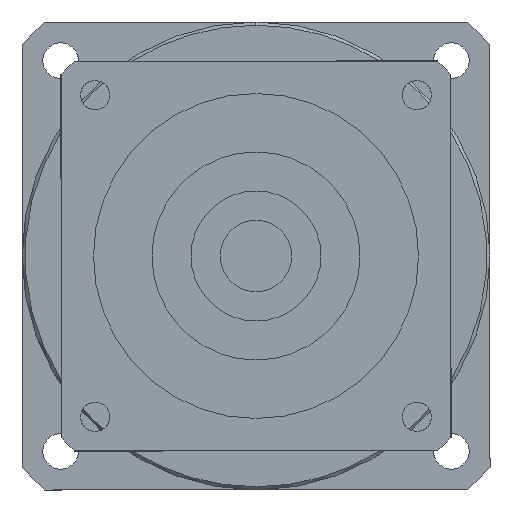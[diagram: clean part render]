
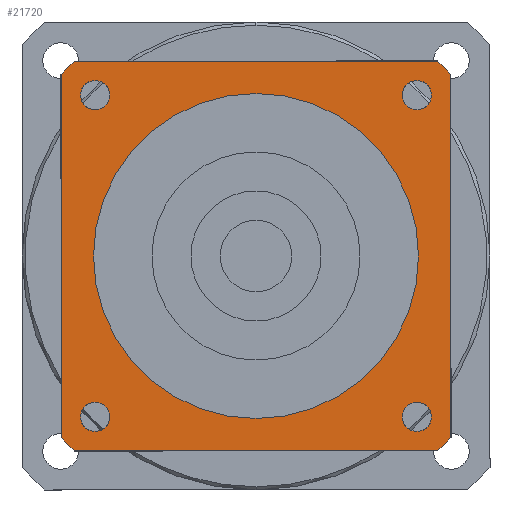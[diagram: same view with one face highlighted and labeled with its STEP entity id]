
A CAD part, left-side view. The second image highlights one B-rep face of the part: STEP entity #21720.
In plain terms, the highlighted planar face has unit normal (-1, 0, 0) as drawn and (0, 0, -1) by its records, which use the part's own axes.
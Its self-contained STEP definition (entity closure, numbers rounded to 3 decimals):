
#15830=CARTESIAN_POINT('',(27.946,30.,-97.5));
#15840=VERTEX_POINT('',#15830);
#15870=CARTESIAN_POINT('',(0.,0.,
-97.5));
#15880=DIRECTION('',(0.,0.,1.));
#15890=DIRECTION('',(0.,-1.,0.));
#15900=AXIS2_PLACEMENT_3D('',#15870,#15880,#15890);
#15910=CIRCLE('',#15900,41.);
#15920=CARTESIAN_POINT('',(30.,27.946,-97.5));
#15930=VERTEX_POINT('',#15920);
#15940=EDGE_CURVE('',#15930,#15840,#15910,.T.);
#18330=CARTESIAN_POINT('',(-27.946,30.,-97.5));
#18340=VERTEX_POINT('',#18330);
#18420=CARTESIAN_POINT('',(-30.,27.946,-97.5));
#18430=VERTEX_POINT('',#18420);
#18460=CARTESIAN_POINT('',(0.,0.,
-97.5));
#18470=DIRECTION('',(0.,0.,1.));
#18480=DIRECTION('',(0.,-1.,0.));
#18490=AXIS2_PLACEMENT_3D('',#18460,#18470,#18480);
#18500=CIRCLE('',#18490,41.);
#18510=EDGE_CURVE('',#18340,#18430,#18500,.T.);
#19020=CARTESIAN_POINT('',(-30.,-27.946,-97.5));
#19030=VERTEX_POINT('',#19020);
#19110=CARTESIAN_POINT('',(-27.946,-30.,-97.5));
#19120=VERTEX_POINT('',#19110);
#19150=CARTESIAN_POINT('',(0.,0.,
-97.5));
#19160=DIRECTION('',(0.,0.,1.));
#19170=DIRECTION('',(0.,-1.,0.));
#19180=AXIS2_PLACEMENT_3D('',#19150,#19160,#19170);
#19190=CIRCLE('',#19180,41.);
#19200=EDGE_CURVE('',#19030,#19120,#19190,.T.);
#19670=CARTESIAN_POINT('',(27.946,-30.,-97.5));
#19680=VERTEX_POINT('',#19670);
#19760=CARTESIAN_POINT('',(30.,-27.946,-97.5));
#19770=VERTEX_POINT('',#19760);
#19800=CARTESIAN_POINT('',(0.,0.,
-97.5));
#19810=DIRECTION('',(0.,0.,1.));
#19820=DIRECTION('',(0.,-1.,0.));
#19830=AXIS2_PLACEMENT_3D('',#19800,#19810,#19820);
#19840=CIRCLE('',#19830,41.);
#19850=EDGE_CURVE('',#19680,#19770,#19840,.T.);
#20000=CARTESIAN_POINT('',(30.,-30.,-97.5));
#20010=DIRECTION('',(0.,1.,0.));
#20020=VECTOR('',#20010,1000.);
#20030=LINE('',#20000,#20020);
#20040=EDGE_CURVE('',#19770,#15930,#20030,.T.);
#20190=CARTESIAN_POINT('',(30.,30.,-97.5));
#20200=DIRECTION('',(-1.,0.,0.));
#20210=VECTOR('',#20200,1000.);
#20220=LINE('',#20190,#20210);
#20230=EDGE_CURVE('',#15840,#18340,#20220,.T.);
#20370=CARTESIAN_POINT('',(-24.749,22.499,-97.5));
#20380=VERTEX_POINT('',#20370);
#20470=CARTESIAN_POINT('',(-24.749,26.999,-97.5));
#20480=VERTEX_POINT('',#20470);
#20510=CARTESIAN_POINT('',(-24.749,24.749,-97.5));
#20520=DIRECTION('',(0.,0.,-1.));
#20530=DIRECTION('',(-1.,0.,0.));
#20540=AXIS2_PLACEMENT_3D('',#20510,#20520,#20530);
#20550=CIRCLE('',#20540,2.25);
#20560=CARTESIAN_POINT('',(-26.999,24.749,-97.5));
#20570=VERTEX_POINT('',#20560);
#20580=EDGE_CURVE('',#20570,#20480,#20550,.T.);
#20600=EDGE_CURVE('',#20380,#20570,#20550,.T.);
#20650=CARTESIAN_POINT('',(-30.,30.,-97.5));
#20660=DIRECTION('',(0.,0.,1.));
#20670=DIRECTION('',(-1.,0.,0.));
#20680=AXIS2_PLACEMENT_3D('',#20650,#20660,#20670);
#20690=PLANE('',#20680);
#20700=CARTESIAN_POINT('',(24.749,-24.749,-97.5));
#20710=DIRECTION('',(0.,0.,-1.));
#20720=DIRECTION('',(1.,0.,0.));
#20730=AXIS2_PLACEMENT_3D('',#20700,#20710,#20720);
#20740=CIRCLE('',#20730,2.25);
#20750=CARTESIAN_POINT('',(26.999,-24.749,-97.5));
#20760=VERTEX_POINT('',#20750);
#20770=CARTESIAN_POINT('',(24.749,-26.999,-97.5));
#20780=VERTEX_POINT('',#20770);
#20790=EDGE_CURVE('',#20760,#20780,#20740,.T.);
#20800=ORIENTED_EDGE('',*,*,#20790,.F.);
#20810=CARTESIAN_POINT('',(24.749,-22.499,-97.5));
#20820=VERTEX_POINT('',#20810);
#20830=EDGE_CURVE('',#20780,#20820,#20740,.T.);
#20840=ORIENTED_EDGE('',*,*,#20830,.F.);
#20850=EDGE_CURVE('',#20820,#20760,#20740,.T.);
#20860=ORIENTED_EDGE('',*,*,#20850,.F.);
#20870=EDGE_LOOP('',(#20860,#20840,#20800));
#20880=FACE_BOUND('',#20870,.T.);
#20890=CARTESIAN_POINT('',(24.749,24.749,-97.5));
#20900=DIRECTION('',(0.,0.,-1.));
#20910=DIRECTION('',(0.,1.,0.));
#20920=AXIS2_PLACEMENT_3D('',#20890,#20900,#20910);
#20930=CIRCLE('',#20920,2.25);
#20940=CARTESIAN_POINT('',(24.749,26.999,-97.5));
#20950=VERTEX_POINT('',#20940);
#20960=CARTESIAN_POINT('',(26.999,24.749,-97.5));
#20970=VERTEX_POINT('',#20960);
#20980=EDGE_CURVE('',#20950,#20970,#20930,.T.);
#20990=ORIENTED_EDGE('',*,*,#20980,.F.);
#21000=CARTESIAN_POINT('',(22.499,24.749,-97.5));
#21010=VERTEX_POINT('',#21000);
#21020=EDGE_CURVE('',#20970,#21010,#20930,.T.);
#21030=ORIENTED_EDGE('',*,*,#21020,.F.);
#21040=EDGE_CURVE('',#21010,#20950,#20930,.T.);
#21050=ORIENTED_EDGE('',*,*,#21040,.F.);
#21060=EDGE_LOOP('',(#21050,#21030,#20990));
#21070=FACE_BOUND('',#21060,.T.);
#21080=ORIENTED_EDGE('',*,*,#20580,.F.);
#21090=EDGE_CURVE('',#20480,#20380,#20550,.T.);
#21100=ORIENTED_EDGE('',*,*,#21090,.F.);
#21110=ORIENTED_EDGE('',*,*,#20600,.F.);
#21120=EDGE_LOOP('',(#21110,#21100,#21080));
#21130=FACE_BOUND('',#21120,.T.);
#21140=CARTESIAN_POINT('',(-24.749,-24.749,-97.5));
#21150=DIRECTION('',(0.,0.,-1.));
#21160=DIRECTION('',(0.,-1.,0.));
#21170=AXIS2_PLACEMENT_3D('',#21140,#21150,#21160);
#21180=CIRCLE('',#21170,2.25);
#21190=CARTESIAN_POINT('',(-24.749,-26.999,-97.5));
#21200=VERTEX_POINT('',#21190);
#21210=CARTESIAN_POINT('',(-26.999,-24.749,-97.5));
#21220=VERTEX_POINT('',#21210);
#21230=EDGE_CURVE('',#21200,#21220,#21180,.T.);
#21240=ORIENTED_EDGE('',*,*,#21230,.F.);
#21250=CARTESIAN_POINT('',(-22.499,-24.749,-97.5));
#21260=VERTEX_POINT('',#21250);
#21270=EDGE_CURVE('',#21220,#21260,#21180,.T.);
#21280=ORIENTED_EDGE('',*,*,#21270,.F.);
#21290=EDGE_CURVE('',#21260,#21200,#21180,.T.);
#21300=ORIENTED_EDGE('',*,*,#21290,.F.);
#21310=EDGE_LOOP('',(#21300,#21280,#21240));
#21320=FACE_BOUND('',#21310,.T.);
#21330=ORIENTED_EDGE('',*,*,#19200,.F.);
#21340=CARTESIAN_POINT('',(-30.,-30.,-97.5));
#21350=DIRECTION('',(1.,0.,0.));
#21360=VECTOR('',#21350,1000.);
#21370=LINE('',#21340,#21360);
#21380=EDGE_CURVE('',#19120,#19680,#21370,.T.);
#21390=ORIENTED_EDGE('',*,*,#21380,.F.);
#21400=ORIENTED_EDGE('',*,*,#19850,.F.);
#21410=ORIENTED_EDGE('',*,*,#20040,.F.);
#21420=ORIENTED_EDGE('',*,*,#15940,.F.);
#21430=ORIENTED_EDGE('',*,*,#20230,.F.);
#21440=ORIENTED_EDGE('',*,*,#18510,.F.);
#21450=CARTESIAN_POINT('',(-30.,30.,-97.5));
#21460=DIRECTION('',(0.,-1.,0.));
#21470=VECTOR('',#21460,1000.);
#21480=LINE('',#21450,#21470);
#21490=EDGE_CURVE('',#18430,#19030,#21480,.T.);
#21500=ORIENTED_EDGE('',*,*,#21490,.F.);
#21510=EDGE_LOOP('',(#21500,#21440,#21430,#21420,#21410,#21400,#21390,
#21330));
#21520=FACE_OUTER_BOUND('',#21510,.T.);
#21530=CARTESIAN_POINT('',(0.,0.,
-97.5));
#21540=DIRECTION('',(0.,0.,1.));
#21550=DIRECTION('',(0.,-1.,0.));
#21560=AXIS2_PLACEMENT_3D('',#21530,#21540,#21550);
#21570=CIRCLE('',#21560,25.);
#21580=CARTESIAN_POINT('',(25.,0.,-97.5));
#21590=VERTEX_POINT('',#21580);
#21600=CARTESIAN_POINT('',(-25.,0.,-97.5));
#21610=VERTEX_POINT('',#21600);
#21620=EDGE_CURVE('',#21590,#21610,#21570,.T.);
#21630=ORIENTED_EDGE('',*,*,#21620,.T.);
#21640=CARTESIAN_POINT('',(0.,-25.,-97.5));
#21650=VERTEX_POINT('',#21640);
#21660=EDGE_CURVE('',#21650,#21590,#21570,.T.);
#21670=ORIENTED_EDGE('',*,*,#21660,.T.);
#21680=EDGE_CURVE('',#21610,#21650,#21570,.T.);
#21690=ORIENTED_EDGE('',*,*,#21680,.T.);
#21700=EDGE_LOOP('',(#21690,#21670,#21630));
#21710=FACE_BOUND('',#21700,.T.);
#21720=ADVANCED_FACE('',(#20880,#21070,#21130,#21320,#21520,#21710),
#20690,.F.);
